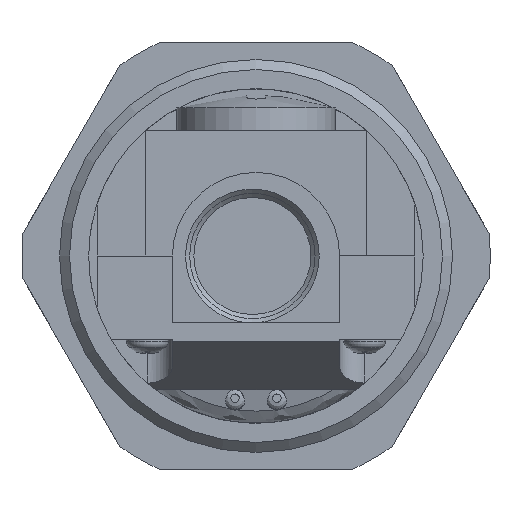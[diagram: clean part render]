
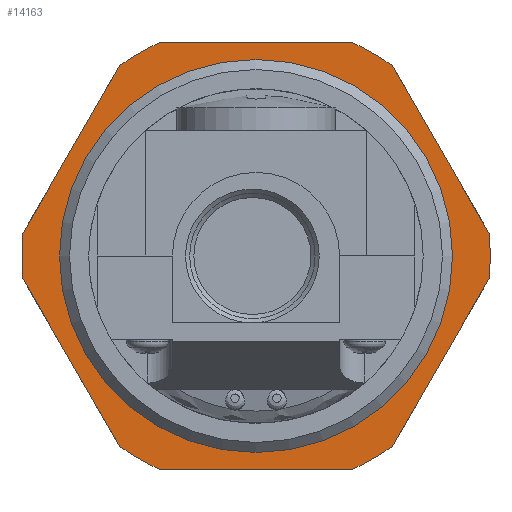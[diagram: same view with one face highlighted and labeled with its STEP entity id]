
A CAD part, front view. The second image highlights one B-rep face of the part: STEP entity #14163.
In plain terms, the highlighted planar face has unit normal (0, -1, 0).
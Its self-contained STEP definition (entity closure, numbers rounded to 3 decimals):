
#10809=CARTESIAN_POINT('',(-20.352,2.2,-11.75));
#10810=VERTEX_POINT('',#10809);
#10811=CARTESIAN_POINT('',(0.,2.2,0.0));
#10812=DIRECTION('',(0.0,-1.0,0.0));
#10813=DIRECTION('',(-1.0,0.0,0.0));
#10814=AXIS2_PLACEMENT_3D('',#10811,#10812,#10813);
#10815=CIRCLE('',#10814,23.5);
#10816=EDGE_CURVE('',#10810,#10810,#10815,.T.);
#14024=CARTESIAN_POINT('',(11.565,2.2,-25.5));
#14025=VERTEX_POINT('',#14024);
#14043=CARTESIAN_POINT('',(16.301,2.2,-22.766));
#14044=VERTEX_POINT('',#14043);
#14051=CARTESIAN_POINT('',(0.,2.2,0.));
#14052=DIRECTION('',(0.,1.0,0.));
#14053=DIRECTION('',(-0.866,0.,-0.5));
#14054=AXIS2_PLACEMENT_3D('',#14051,#14052,#14053);
#14055=CIRCLE('',#14054,28.);
#14056=EDGE_CURVE('',#14044,#14025,#14055,.T.);
#14061=CARTESIAN_POINT('',(-24.191,2.2,-13.967));
#14062=DIRECTION('',(0.0,-1.0,0.0));
#14063=DIRECTION('',(0.5,0.0,-0.866));
#14064=AXIS2_PLACEMENT_3D('',#14061,#14062,#14063);
#14065=PLANE('',#14064);
#14066=CARTESIAN_POINT('',(-11.565,2.2,-25.5));
#14067=VERTEX_POINT('',#14066);
#14068=CARTESIAN_POINT('',(-11.565,2.2,-25.5));
#14069=DIRECTION('',(1.0,0.0,0.0));
#14070=VECTOR('',#14069,23.13);
#14071=LINE('',#14068,#14070);
#14072=EDGE_CURVE('',#14067,#14025,#14071,.T.);
#14073=ORIENTED_EDGE('',*,*,#14072,.T.);
#14074=ORIENTED_EDGE('',*,*,#14056,.F.);
#14075=CARTESIAN_POINT('',(27.866,2.2,-2.734));
#14076=VERTEX_POINT('',#14075);
#14077=CARTESIAN_POINT('',(16.301,2.2,-22.766));
#14078=DIRECTION('',(0.5,0.,0.866));
#14079=VECTOR('',#14078,23.13);
#14080=LINE('',#14077,#14079);
#14081=EDGE_CURVE('',#14044,#14076,#14080,.T.);
#14082=ORIENTED_EDGE('',*,*,#14081,.T.);
#14083=CARTESIAN_POINT('',(27.866,2.2,2.734));
#14084=VERTEX_POINT('',#14083);
#14085=CARTESIAN_POINT('',(0.,2.2,0.));
#14086=DIRECTION('',(0.,1.0,0.));
#14087=DIRECTION('',(-0.866,0.,-0.5));
#14088=AXIS2_PLACEMENT_3D('',#14085,#14086,#14087);
#14089=CIRCLE('',#14088,28.);
#14090=EDGE_CURVE('',#14084,#14076,#14089,.T.);
#14091=ORIENTED_EDGE('',*,*,#14090,.F.);
#14092=CARTESIAN_POINT('',(16.301,2.2,22.766));
#14093=VERTEX_POINT('',#14092);
#14094=CARTESIAN_POINT('',(27.866,2.2,2.734));
#14095=DIRECTION('',(-0.5,0.,0.866));
#14096=VECTOR('',#14095,23.13);
#14097=LINE('',#14094,#14096);
#14098=EDGE_CURVE('',#14084,#14093,#14097,.T.);
#14099=ORIENTED_EDGE('',*,*,#14098,.T.);
#14100=CARTESIAN_POINT('',(11.565,2.2,25.5));
#14101=VERTEX_POINT('',#14100);
#14102=CARTESIAN_POINT('',(0.,2.2,0.));
#14103=DIRECTION('',(0.,1.0,0.));
#14104=DIRECTION('',(-0.866,0.,-0.5));
#14105=AXIS2_PLACEMENT_3D('',#14102,#14103,#14104);
#14106=CIRCLE('',#14105,28.);
#14107=EDGE_CURVE('',#14101,#14093,#14106,.T.);
#14108=ORIENTED_EDGE('',*,*,#14107,.F.);
#14109=CARTESIAN_POINT('',(-11.565,2.2,25.5));
#14110=VERTEX_POINT('',#14109);
#14111=CARTESIAN_POINT('',(11.565,2.2,25.5));
#14112=DIRECTION('',(-1.0,0.0,0.0));
#14113=VECTOR('',#14112,23.13);
#14114=LINE('',#14111,#14113);
#14115=EDGE_CURVE('',#14101,#14110,#14114,.T.);
#14116=ORIENTED_EDGE('',*,*,#14115,.T.);
#14117=CARTESIAN_POINT('',(-16.301,2.2,22.766));
#14118=VERTEX_POINT('',#14117);
#14119=CARTESIAN_POINT('',(0.,2.2,0.));
#14120=DIRECTION('',(0.,1.0,0.));
#14121=DIRECTION('',(-0.866,0.,-0.5));
#14122=AXIS2_PLACEMENT_3D('',#14119,#14120,#14121);
#14123=CIRCLE('',#14122,28.);
#14124=EDGE_CURVE('',#14118,#14110,#14123,.T.);
#14125=ORIENTED_EDGE('',*,*,#14124,.F.);
#14126=CARTESIAN_POINT('',(-27.866,2.2,2.734));
#14127=VERTEX_POINT('',#14126);
#14128=CARTESIAN_POINT('',(-16.301,2.2,22.766));
#14129=DIRECTION('',(-0.5,0.,-0.866));
#14130=VECTOR('',#14129,23.13);
#14131=LINE('',#14128,#14130);
#14132=EDGE_CURVE('',#14118,#14127,#14131,.T.);
#14133=ORIENTED_EDGE('',*,*,#14132,.T.);
#14134=CARTESIAN_POINT('',(-27.866,2.2,-2.734));
#14135=VERTEX_POINT('',#14134);
#14136=CARTESIAN_POINT('',(0.,2.2,0.));
#14137=DIRECTION('',(0.,1.0,0.));
#14138=DIRECTION('',(-0.866,0.,-0.5));
#14139=AXIS2_PLACEMENT_3D('',#14136,#14137,#14138);
#14140=CIRCLE('',#14139,28.);
#14141=EDGE_CURVE('',#14135,#14127,#14140,.T.);
#14142=ORIENTED_EDGE('',*,*,#14141,.F.);
#14143=CARTESIAN_POINT('',(-16.301,2.2,-22.766));
#14144=VERTEX_POINT('',#14143);
#14145=CARTESIAN_POINT('',(-27.866,2.2,-2.734));
#14146=DIRECTION('',(0.5,0.,-0.866));
#14147=VECTOR('',#14146,23.13);
#14148=LINE('',#14145,#14147);
#14149=EDGE_CURVE('',#14135,#14144,#14148,.T.);
#14150=ORIENTED_EDGE('',*,*,#14149,.T.);
#14151=CARTESIAN_POINT('',(0.,2.2,0.));
#14152=DIRECTION('',(0.,1.0,0.));
#14153=DIRECTION('',(-0.866,0.,-0.5));
#14154=AXIS2_PLACEMENT_3D('',#14151,#14152,#14153);
#14155=CIRCLE('',#14154,28.);
#14156=EDGE_CURVE('',#14067,#14144,#14155,.T.);
#14157=ORIENTED_EDGE('',*,*,#14156,.F.);
#14158=EDGE_LOOP('',(#14073,#14074,#14082,#14091,#14099,#14108,#14116,#14125,#14133,#14142,#14150,#14157));
#14159=FACE_OUTER_BOUND('',#14158,.T.);
#14160=ORIENTED_EDGE('',*,*,#10816,.F.);
#14161=EDGE_LOOP('',(#14160));
#14162=FACE_BOUND('',#14161,.T.);
#14163=ADVANCED_FACE('',(#14159,#14162),#14065,.T.);
